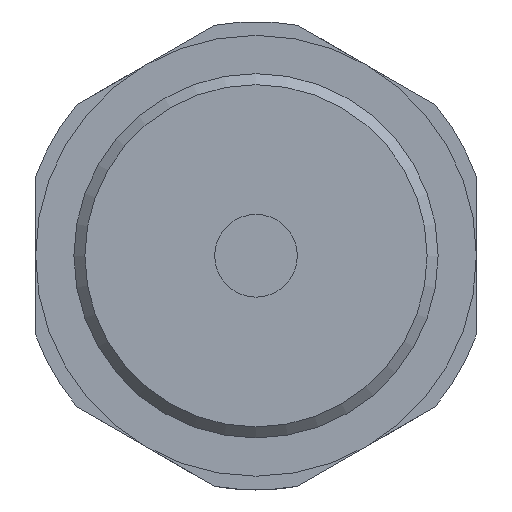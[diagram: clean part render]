
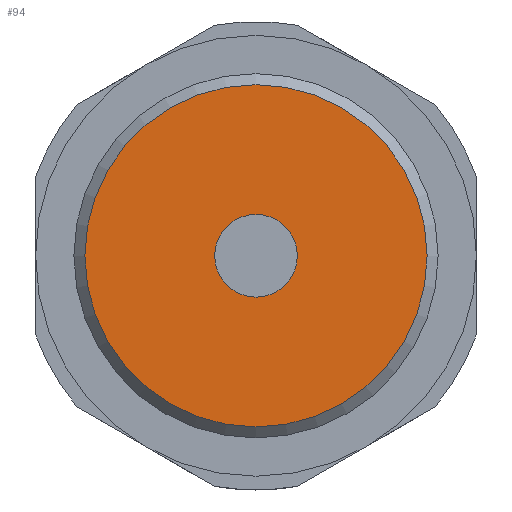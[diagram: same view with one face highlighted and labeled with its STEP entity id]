
A CAD part, front view. The second image highlights one B-rep face of the part: STEP entity #94.
In plain terms, the highlighted planar face has unit normal (0, -1, 0).
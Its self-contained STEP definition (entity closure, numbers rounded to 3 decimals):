
#94 = ADVANCED_FACE( '', ( #153, #154 ), #155, .F. );
#153 = FACE_BOUND( '', #238, .T. );
#154 = FACE_OUTER_BOUND( '', #239, .T. );
#155 = PLANE( '', #240 );
#238 = EDGE_LOOP( '', ( #416 ) );
#239 = EDGE_LOOP( '', ( #417 ) );
#240 = AXIS2_PLACEMENT_3D( '', #418, #419, #420 );
#416 = ORIENTED_EDGE( '', *, *, #530, .F. );
#417 = ORIENTED_EDGE( '', *, *, #532, .T. );
#418 = CARTESIAN_POINT( '', ( 12.421, -8., 0. ) );
#419 = DIRECTION( '', ( 0., 1., 0. ) );
#420 = DIRECTION( '', ( 0., 0., 1. ) );
#530 = EDGE_CURVE( '', #615, #615, #616, .T. );
#532 = EDGE_CURVE( '', #619, #619, #620, .T. );
#615 = VERTEX_POINT( '', #757 );
#616 = CIRCLE( '', #758, 3. );
#619 = VERTEX_POINT( '', #761 );
#620 = CIRCLE( '', #762, 12.421 );
#757 = CARTESIAN_POINT( '', ( 0., -8., -3. ) );
#758 = AXIS2_PLACEMENT_3D( '', #855, #856, #857 );
#761 = CARTESIAN_POINT( '', ( 0., -8., -12.421 ) );
#762 = AXIS2_PLACEMENT_3D( '', #861, #862, #863 );
#855 = CARTESIAN_POINT( '', ( 0., -8., 0. ) );
#856 = DIRECTION( '', ( 0., -1., 0. ) );
#857 = DIRECTION( '', ( 0., 0., -1. ) );
#861 = CARTESIAN_POINT( '', ( 0., -8., 0. ) );
#862 = DIRECTION( '', ( 0., -1., 0. ) );
#863 = DIRECTION( '', ( 0., 0., -1. ) );
